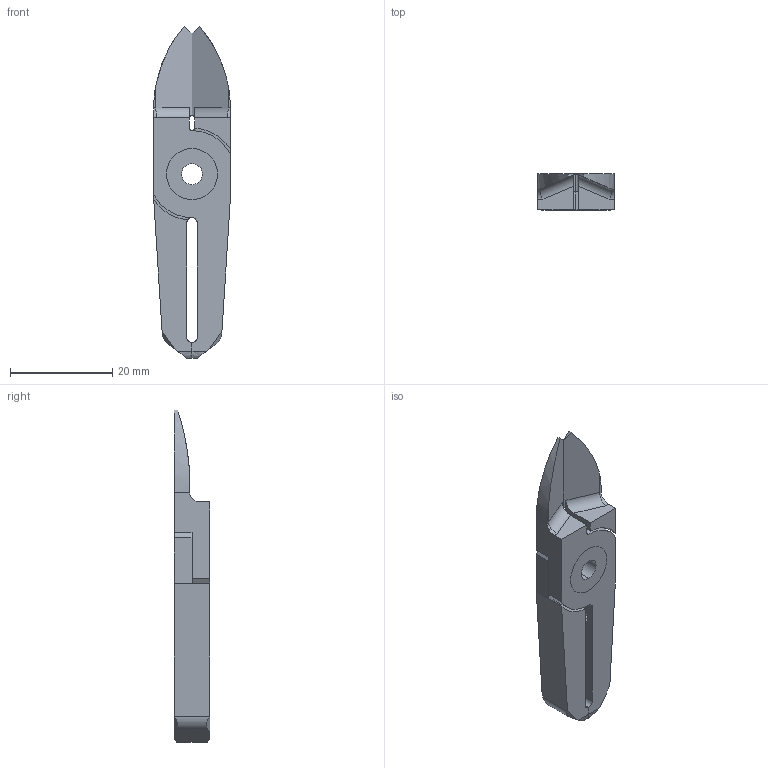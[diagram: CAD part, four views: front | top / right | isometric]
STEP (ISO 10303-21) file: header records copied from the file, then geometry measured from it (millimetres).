
FILE_DESCRIPTION (( 'STEP AP214' ), '1' );
FILE_NAME ('NT05AJT.STEP', '2019-11-28T09:19:53', ( '微软用户' ), ( '微软中国' ), 'SwSTEP 2.0', 'SolidWorks 2016', '' );
FILE_SCHEMA (( 'AUTOMOTIVE_DESIGN' ));
Length unit declared in the file: millimetre
Products named in the file (4): BR2; BR1; BS; NT05AJT
Assembly tree (3 placements, depth 2):
  NT05AJT
    BS
    BR1
    BR2
Bounding box: 15 x 7 x 65 mm (x, y, z)
Volume: 4101.2 mm3; surface area: 3963.8 mm2
Topology: 3 solids, 3 shells, 94 faces, 246 edges, 156 vertices
Faces by surface type: plane 38, cylinder 30, cone 16, bspline 10
Entity records: 3055 total; most frequent: CARTESIAN_POINT 680, ORIENTED_EDGE 484, DIRECTION 452, EDGE_CURVE 242, VERTEX_POINT 156, AXIS2_PLACEMENT_3D 154, VECTOR 144, LINE 144
